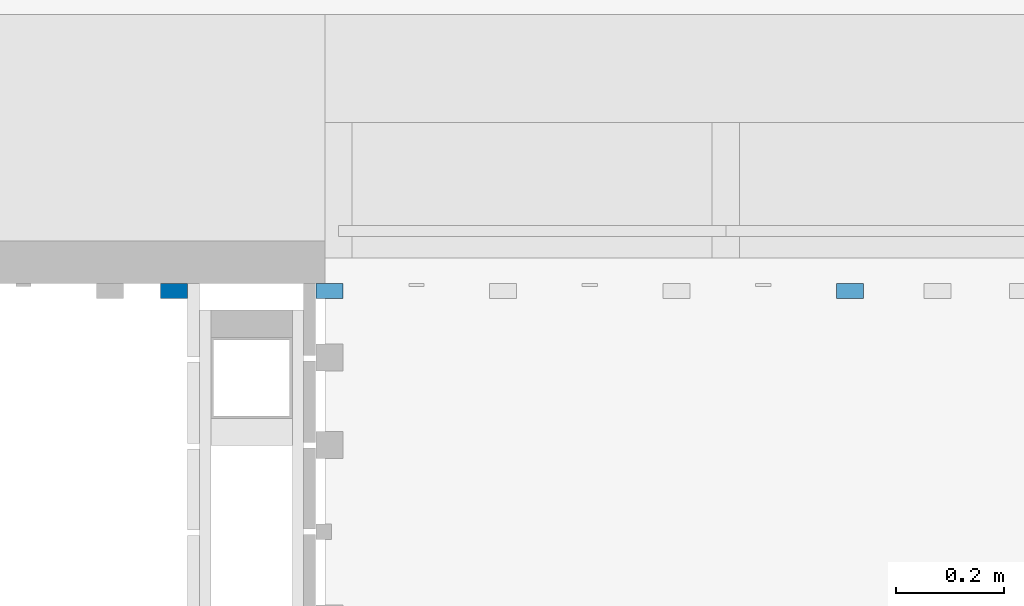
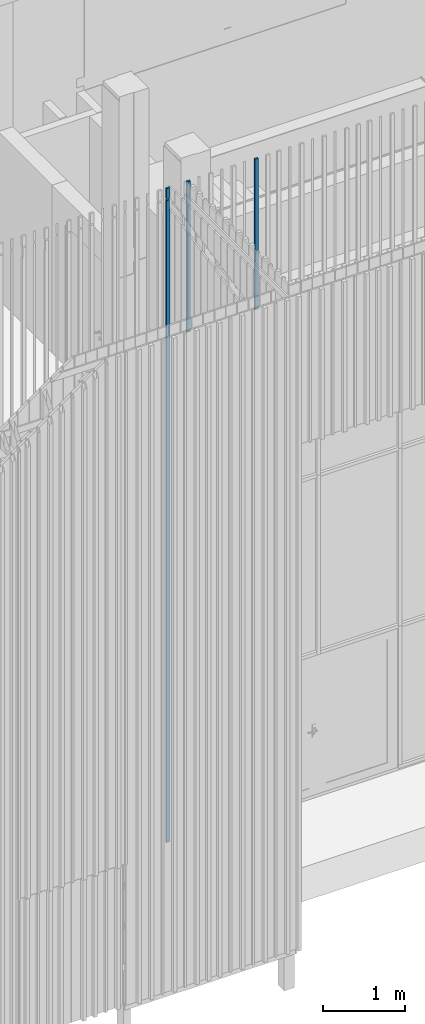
# One storey, part 146 of 390: 3 walls.
"""IFC2X3 building model written with IfcOpenShell, lengths in millimetres."""

from ifc_helpers import new_model, entity, si_unit, converted_unit, derived_unit, money_unit, direction, frame, origin_with_axes, place, context, subcontext, project, spatial, faceted_brep, material, material_list, type_object, element, save


model = new_model("IFC2X3")

# Units and contexts
model_context = context("Model", 3, precision=1e-05, world=origin_with_axes(), true_north=direction((0.0, 1.0)))
body_context = subcontext(model_context, "Body", "Model", "MODEL_VIEW")
ifc_project = project(units=[si_unit("LENGTHUNIT", "METRE", prefix="MILLI"), si_unit("AREAUNIT", "SQUARE_METRE"), si_unit("VOLUMEUNIT", "CUBIC_METRE"), converted_unit("PLANEANGLEUNIT", "DEGREE", entity("IfcPlaneAngleMeasure", 0.0174532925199), si_unit("PLANEANGLEUNIT", "RADIAN"), dimensions=[0, 0, 0, 0, 0, 0, 0]), si_unit("SOLIDANGLEUNIT", "STERADIAN"), money_unit("EUR"), converted_unit("TIMEUNIT", "Year", entity("IfcTimeMeasure", 31556926.0), si_unit("TIMEUNIT", "SECOND"), dimensions=[0, 0, 1, 0, 0, 0, 0]), si_unit("MASSUNIT", "GRAM", prefix="KILO"), si_unit("THERMODYNAMICTEMPERATUREUNIT", "DEGREE_CELSIUS"), si_unit("LUMINOUSINTENSITYUNIT", "LUMEN"), si_unit("ENERGYUNIT", "JOULE", prefix="MEGA"), derived_unit("THERMALCONDUCTANCEUNIT", [(si_unit("POWERUNIT", "WATT"), 1), (si_unit("LENGTHUNIT", "METRE"), -1), (si_unit("THERMODYNAMICTEMPERATUREUNIT", "KELVIN"), -1)]), derived_unit("SPECIFICHEATCAPACITYUNIT", [(si_unit("ENERGYUNIT", "JOULE"), 1), (si_unit("MASSUNIT", "GRAM", prefix="KILO"), -1), (si_unit("THERMODYNAMICTEMPERATUREUNIT", "KELVIN"), -1)]), derived_unit("MASSDENSITYUNIT", [(si_unit("MASSUNIT", "GRAM", prefix="KILO"), 1), (si_unit("VOLUMEUNIT", "CUBIC_METRE"), -1)])], contexts=[model_context])

# Site, building, storey
site_placement = place(None, origin_with_axes())
site = spatial("IfcSite", under=ifc_project, at=site_placement, Name="Site", CompositionType="ELEMENT")
building_placement = place(site_placement, origin_with_axes())
building = spatial("IfcBuilding", under=site, at=building_placement, Name="Building", CompositionType="ELEMENT")
storey_placement = place(building_placement, origin_with_axes())
storey = spatial("IfcBuildingStorey", under=building, at=storey_placement, Name="1 korrus", CompositionType="ELEMENT", Elevation=0.0)

# Walls
ifc_material = material(Name="Site specified")
ifc_material_list = material_list([ifc_material, ifc_material])
wall_type = type_object("IfcWallType", Name="Puitfassaadi ribistik", PredefinedType="NOTDEFINED")
wall_1_placement = place(storey_placement, frame((128821.999994, 45260.9999735, 100.000000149), z_axis=(0.0, 0.0, 1.0), x_axis=(-1.0, 0.0, 0.0)))
element("IfcWall", 1, at=wall_1_placement, inside=storey, type_object=wall_type, material=ifc_material_list, Name="Site specified", context=body_context, shape_type="Brep", body=[
    faceted_brep([(-25.0, 25.0, 9764.99999985), (-25.0, 25.0, 9607.64737953), (-25.0, -2.00003491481, 9613.38641411), (-25.0, -2.00003491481, 9764.99999985), (25.0, 25.0, 9764.99999985), (25.0, 25.0, 9607.64737953), (25.0, -2.00003491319, 9613.38641411), (25.0, -2.00003491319, 9764.99999985)], [[[0, 1, 2, 3]], [[4, 5, 1, 0]], [[5, 6, 2, 1]], [[3, 2, 6, 7]], [[3, 7, 4, 0]], [[7, 6, 5, 4]]]),
    faceted_brep([(25.0, -2.00003491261, 9591.91726162), (-17.9999999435, -1.99978871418, 9591.9184199), (-17.9999999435, -2.00003491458, 9438.56736687), (-25.0, -2.00003491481, 9438.56736687), (-25.0, -1.99993860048, -3.12924797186e-06), (25.0, -1.99993859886, -3.12924797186e-06), (25.0, 25.0, 9586.17822703), (-17.9999999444, 25.0002433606, 9586.17937195), (-17.9999999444, 25.0, 9432.82831833), (-25.0, 25.0, 9432.82831833), (-25.0, 25.0, 0.0), (25.0, 25.0, 0.0)], [[[0, 1, 2, 3, 4, 5]], [[6, 7, 1, 0]], [[8, 2, 1, 7]], [[8, 9, 3, 2]], [[4, 3, 9, 10]], [[11, 5, 4, 10]], [[5, 11, 6, 0]], [[9, 8, 7, 6, 11, 10]]]),
])
wall_2_placement = place(storey_placement, frame((130068.999994, 45260.9999311, 7614.99996126), z_axis=(0.0, 0.0, 1.0), x_axis=(-1.0, 0.0, 0.0)))
element("IfcWall", 2, at=wall_2_placement, inside=storey, type_object=wall_type, material=ifc_material, Name="Site specified", context=body_context, shape_type="Brep", body=[
    faceted_brep([(-25.0, 25.0, 0.0), (-25.0, -2.00007931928, 0.0), (-25.0, -2.00007733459, 2250.00003874), (-25.0, 25.0, 2250.00003874), (25.0, 25.0, 0.0), (25.0, -2.00007931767, 0.0), (25.0, -2.00007733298, 2250.00003874), (25.0, 25.0, 2250.00003874)], [[[0, 1, 2, 3]], [[4, 5, 1, 0]], [[6, 2, 1, 5]], [[3, 2, 6, 7]], [[3, 7, 4, 0]], [[6, 5, 4, 7]]]),
])
wall_3_placement = place(storey_placement, frame((129108.999994, 45260.9999735, 7614.99996126), z_axis=(0.0, 0.0, 1.0), x_axis=(-1.0, 0.0, 0.0)))
element("IfcWall", 3, at=wall_3_placement, inside=storey, type_object=wall_type, material=ifc_material, Name="Site specified", context=body_context, shape_type="Brep", body=[
    faceted_brep([(-25.0, 25.0, 0.0), (-25.0, -2.00003690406, 0.0), (-25.0, -2.00003491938, 2250.00003874), (-25.0, 25.0, 2250.00003874), (25.0, 25.0, 0.0), (25.0, -2.00003690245, 0.0), (25.0, -2.00003491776, 2250.00003874), (25.0, 25.0, 2250.00003874)], [[[0, 1, 2, 3]], [[4, 5, 1, 0]], [[6, 2, 1, 5]], [[3, 2, 6, 7]], [[3, 7, 4, 0]], [[6, 5, 4, 7]]]),
])

save(model, "model.ifc")
